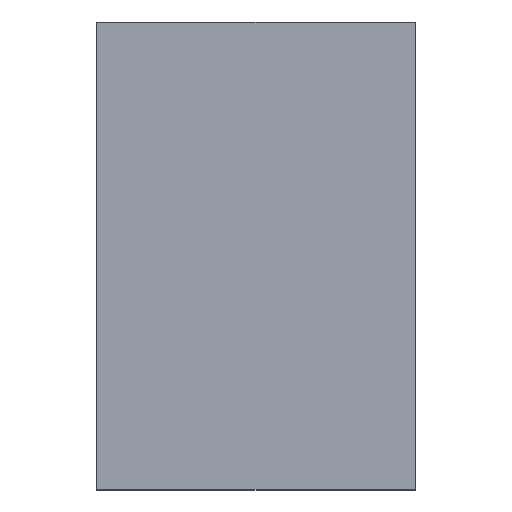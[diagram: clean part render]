
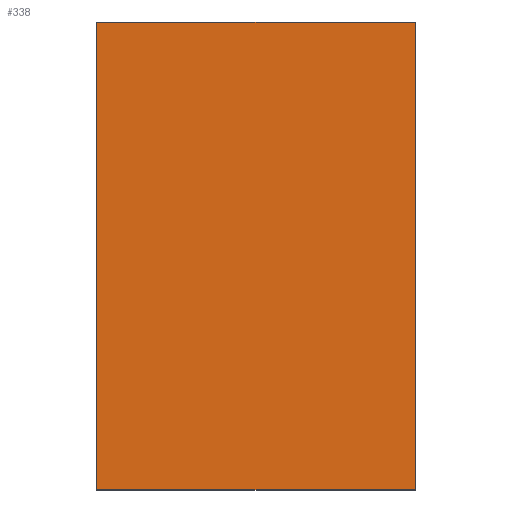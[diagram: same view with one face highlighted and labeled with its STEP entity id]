
A CAD part, top view. The second image highlights one B-rep face of the part: STEP entity #338.
In plain terms, the highlighted planar face has unit normal (0, 0, 1).
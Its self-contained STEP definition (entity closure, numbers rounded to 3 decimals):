
#24 = VERTEX_POINT('',#25);
#25 = CARTESIAN_POINT('',(-17.,-25.,6.));
#32 = PLANE('',#33);
#33 = AXIS2_PLACEMENT_3D('',#34,#35,#36);
#34 = CARTESIAN_POINT('',(-17.,-25.,0.));
#35 = DIRECTION('',(1.,0.,-0.));
#36 = DIRECTION('',(0.,0.,1.));
#44 = PLANE('',#45);
#45 = AXIS2_PLACEMENT_3D('',#46,#47,#48);
#46 = CARTESIAN_POINT('',(-17.,-25.,0.));
#47 = DIRECTION('',(-0.,1.,0.));
#48 = DIRECTION('',(0.,0.,1.));
#85 = VERTEX_POINT('',#86);
#86 = CARTESIAN_POINT('',(-17.,25.,6.));
#100 = PLANE('',#101);
#101 = AXIS2_PLACEMENT_3D('',#102,#103,#104);
#102 = CARTESIAN_POINT('',(-17.,25.,0.));
#103 = DIRECTION('',(-0.,1.,0.));
#104 = DIRECTION('',(0.,0.,1.));
#112 = EDGE_CURVE('',#24,#85,#113,.T.);
#113 = SURFACE_CURVE('',#114,(#118,#125),.PCURVE_S1.);
#114 = LINE('',#115,#116);
#115 = CARTESIAN_POINT('',(-17.,-25.,6.));
#116 = VECTOR('',#117,1.);
#117 = DIRECTION('',(-0.,1.,0.));
#118 = PCURVE('',#32,#119);
#119 = DEFINITIONAL_REPRESENTATION('',(#120),#124);
#120 = LINE('',#121,#122);
#121 = CARTESIAN_POINT('',(6.,0.));
#122 = VECTOR('',#123,1.);
#123 = DIRECTION('',(0.,-1.));
#124 = ( GEOMETRIC_REPRESENTATION_CONTEXT(2) 
PARAMETRIC_REPRESENTATION_CONTEXT() REPRESENTATION_CONTEXT('2D SPACE',''
  ) );
#125 = PCURVE('',#126,#131);
#126 = PLANE('',#127);
#127 = AXIS2_PLACEMENT_3D('',#128,#129,#130);
#128 = CARTESIAN_POINT('',(-17.,-25.,6.));
#129 = DIRECTION('',(0.,0.,1.));
#130 = DIRECTION('',(1.,0.,-0.));
#131 = DEFINITIONAL_REPRESENTATION('',(#132),#136);
#132 = LINE('',#133,#134);
#133 = CARTESIAN_POINT('',(0.,0.));
#134 = VECTOR('',#135,1.);
#135 = DIRECTION('',(0.,1.));
#136 = ( GEOMETRIC_REPRESENTATION_CONTEXT(2) 
PARAMETRIC_REPRESENTATION_CONTEXT() REPRESENTATION_CONTEXT('2D SPACE',''
  ) );
#144 = VERTEX_POINT('',#145);
#145 = CARTESIAN_POINT('',(17.,-25.,6.));
#152 = PLANE('',#153);
#153 = AXIS2_PLACEMENT_3D('',#154,#155,#156);
#154 = CARTESIAN_POINT('',(17.,-25.,0.));
#155 = DIRECTION('',(1.,0.,-0.));
#156 = DIRECTION('',(0.,0.,1.));
#195 = VERTEX_POINT('',#196);
#196 = CARTESIAN_POINT('',(17.,25.,6.));
#217 = EDGE_CURVE('',#144,#195,#218,.T.);
#218 = SURFACE_CURVE('',#219,(#223,#230),.PCURVE_S1.);
#219 = LINE('',#220,#221);
#220 = CARTESIAN_POINT('',(17.,-25.,6.));
#221 = VECTOR('',#222,1.);
#222 = DIRECTION('',(-0.,1.,0.));
#223 = PCURVE('',#152,#224);
#224 = DEFINITIONAL_REPRESENTATION('',(#225),#229);
#225 = LINE('',#226,#227);
#226 = CARTESIAN_POINT('',(6.,0.));
#227 = VECTOR('',#228,1.);
#228 = DIRECTION('',(0.,-1.));
#229 = ( GEOMETRIC_REPRESENTATION_CONTEXT(2) 
PARAMETRIC_REPRESENTATION_CONTEXT() REPRESENTATION_CONTEXT('2D SPACE',''
  ) );
#230 = PCURVE('',#126,#231);
#231 = DEFINITIONAL_REPRESENTATION('',(#232),#236);
#232 = LINE('',#233,#234);
#233 = CARTESIAN_POINT('',(34.,0.));
#234 = VECTOR('',#235,1.);
#235 = DIRECTION('',(0.,1.));
#236 = ( GEOMETRIC_REPRESENTATION_CONTEXT(2) 
PARAMETRIC_REPRESENTATION_CONTEXT() REPRESENTATION_CONTEXT('2D SPACE',''
  ) );
#263 = EDGE_CURVE('',#24,#144,#264,.T.);
#264 = SURFACE_CURVE('',#265,(#269,#276),.PCURVE_S1.);
#265 = LINE('',#266,#267);
#266 = CARTESIAN_POINT('',(-17.,-25.,6.));
#267 = VECTOR('',#268,1.);
#268 = DIRECTION('',(1.,0.,-0.));
#269 = PCURVE('',#44,#270);
#270 = DEFINITIONAL_REPRESENTATION('',(#271),#275);
#271 = LINE('',#272,#273);
#272 = CARTESIAN_POINT('',(6.,0.));
#273 = VECTOR('',#274,1.);
#274 = DIRECTION('',(0.,1.));
#275 = ( GEOMETRIC_REPRESENTATION_CONTEXT(2) 
PARAMETRIC_REPRESENTATION_CONTEXT() REPRESENTATION_CONTEXT('2D SPACE',''
  ) );
#276 = PCURVE('',#126,#277);
#277 = DEFINITIONAL_REPRESENTATION('',(#278),#282);
#278 = LINE('',#279,#280);
#279 = CARTESIAN_POINT('',(0.,0.));
#280 = VECTOR('',#281,1.);
#281 = DIRECTION('',(1.,0.));
#282 = ( GEOMETRIC_REPRESENTATION_CONTEXT(2) 
PARAMETRIC_REPRESENTATION_CONTEXT() REPRESENTATION_CONTEXT('2D SPACE',''
  ) );
#310 = EDGE_CURVE('',#85,#195,#311,.T.);
#311 = SURFACE_CURVE('',#312,(#316,#323),.PCURVE_S1.);
#312 = LINE('',#313,#314);
#313 = CARTESIAN_POINT('',(-17.,25.,6.));
#314 = VECTOR('',#315,1.);
#315 = DIRECTION('',(1.,0.,-0.));
#316 = PCURVE('',#100,#317);
#317 = DEFINITIONAL_REPRESENTATION('',(#318),#322);
#318 = LINE('',#319,#320);
#319 = CARTESIAN_POINT('',(6.,0.));
#320 = VECTOR('',#321,1.);
#321 = DIRECTION('',(0.,1.));
#322 = ( GEOMETRIC_REPRESENTATION_CONTEXT(2) 
PARAMETRIC_REPRESENTATION_CONTEXT() REPRESENTATION_CONTEXT('2D SPACE',''
  ) );
#323 = PCURVE('',#126,#324);
#324 = DEFINITIONAL_REPRESENTATION('',(#325),#329);
#325 = LINE('',#326,#327);
#326 = CARTESIAN_POINT('',(0.,50.));
#327 = VECTOR('',#328,1.);
#328 = DIRECTION('',(1.,0.));
#329 = ( GEOMETRIC_REPRESENTATION_CONTEXT(2) 
PARAMETRIC_REPRESENTATION_CONTEXT() REPRESENTATION_CONTEXT('2D SPACE',''
  ) );
#338 = ADVANCED_FACE('',(#339),#126,.T.);
#339 = FACE_BOUND('',#340,.T.);
#340 = EDGE_LOOP('',(#341,#342,#343,#344));
#341 = ORIENTED_EDGE('',*,*,#112,.F.);
#342 = ORIENTED_EDGE('',*,*,#263,.T.);
#343 = ORIENTED_EDGE('',*,*,#217,.T.);
#344 = ORIENTED_EDGE('',*,*,#310,.F.);
